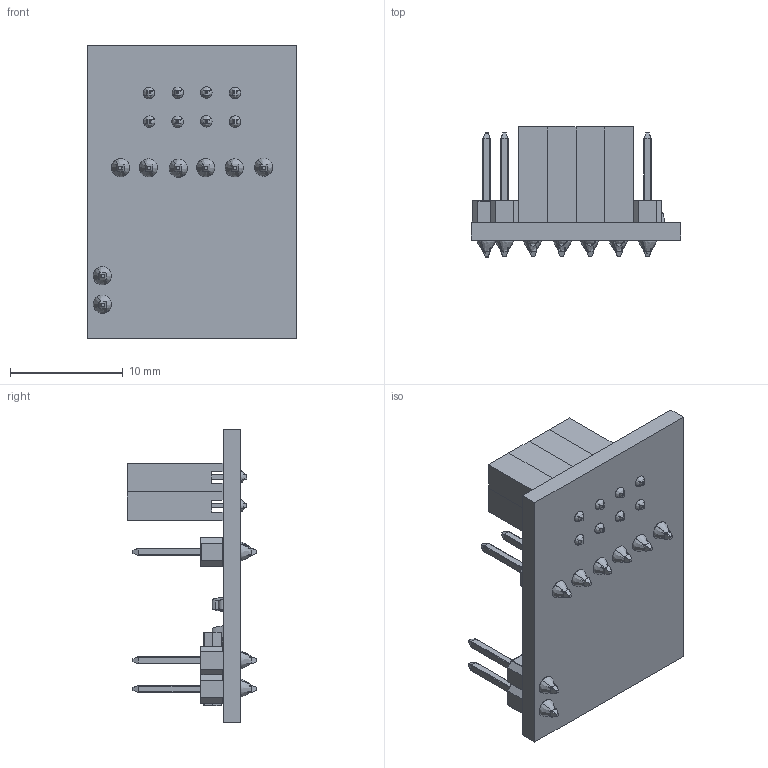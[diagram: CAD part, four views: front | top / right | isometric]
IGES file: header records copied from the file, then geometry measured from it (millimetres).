
Start section: SolidWorks IGES file using analytic representation for surfaces
Global section: file name: C:\Users\alexa\Dropbox\Freelance\2016-05-MotorLeaf\Solidworks\2-Driplet Enclosure\Components\NRF24L01 Power Adapter\NRFL24L01_Power_Board_asm.IGS; native system: SolidWorks 2016; preprocessor: SolidWorks 2016; author: alexa; date: 160606.141627; units: millimetre
Bounding box: 18.6 x 11.5 x 26 mm (x, y, z)
Surface area: 3188.1 mm2 (no closed solid volume)
Topology: 0 solids, 0 shells, 2085 faces, 11745 edges, 11667 vertices
Faces by surface type: bspline 1627, revolution 458
